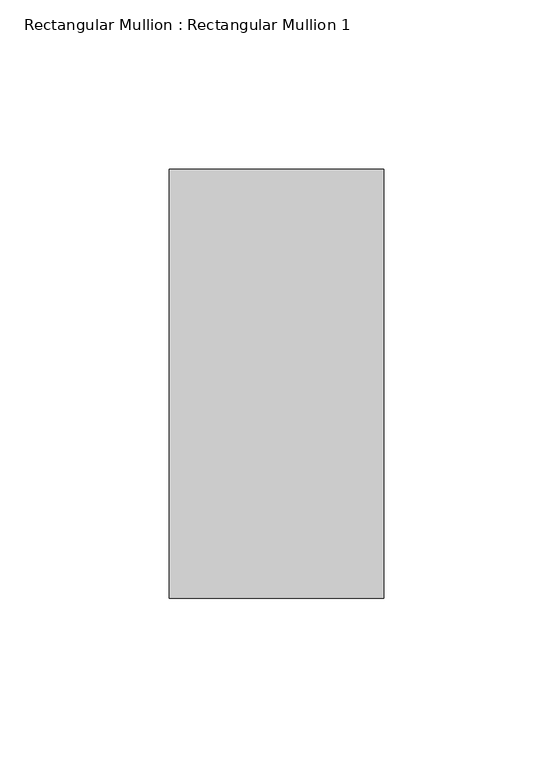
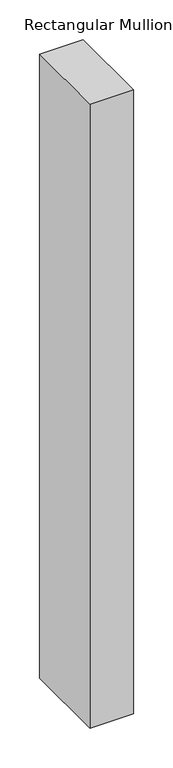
"""IFC4 building model written with IfcOpenShell, lengths in millimetres: member geometry, Rectangular Mullion : Rectangular Mullion 1."""

from ifc_helpers import new_model, si_unit, frame, origin, place, context, project, spatial, polyline, outline, extrude, source, transform, mapped, element, save


def rectangular_mullion_rectangular_mullion_1_5af5ffa1(model_context):
    return source(origin(), model_context, "Body", "SweptSolid", [
        extrude(outline(polyline([(31.75, 63.5), (31.75, -63.5), (-31.75, -63.5), (-31.75, 63.5), (31.75, 63.5)])), frame((0.0, 0.0, -960.5693705), z_axis=(0.0, 0.0, 1.0), x_axis=(1.0, 0.0, 0.0)), (0.0, 0.0, 1.0), 960.5693705),
    ])


if __name__ == "__main__":
    model = new_model("IFC4")
    model_context = context("Model", 3, world=origin())
    ifc_project = project(units=[si_unit("LENGTHUNIT", "METRE", prefix="MILLI")], contexts=[model_context])
    site = spatial("IfcSite", under=ifc_project)
    building = spatial("IfcBuilding", under=site)
    placement = place(None, origin())
    rectangular_mullion_rectangular_mullion_1_shape = rectangular_mullion_rectangular_mullion_1_5af5ffa1(model_context)
    element("IfcMember", 1, ObjectType="Rectangular Mullion : Rectangular Mullion 1", at=placement, inside=building, context=model_context, shape_type="MappedRepresentation", body=[
        mapped(rectangular_mullion_rectangular_mullion_1_shape, transform((0.0, 0.0, 0.0), x_axis=(1.0, 0.0, 0.0), y_axis=(0.0, 1.0, 0.0), z_axis=(0.0, 0.0, 1.0))),
    ])
    save(model, "model.ifc")
